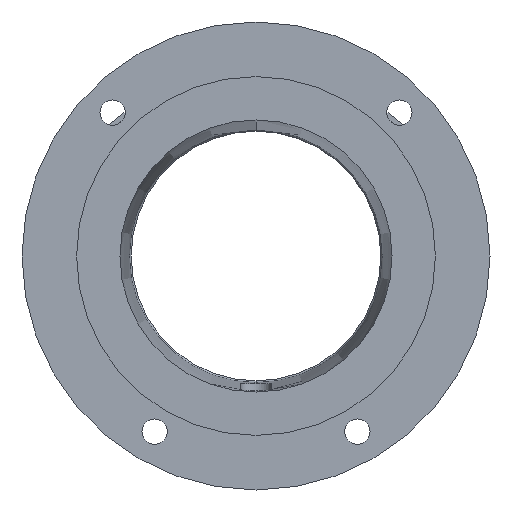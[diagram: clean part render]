
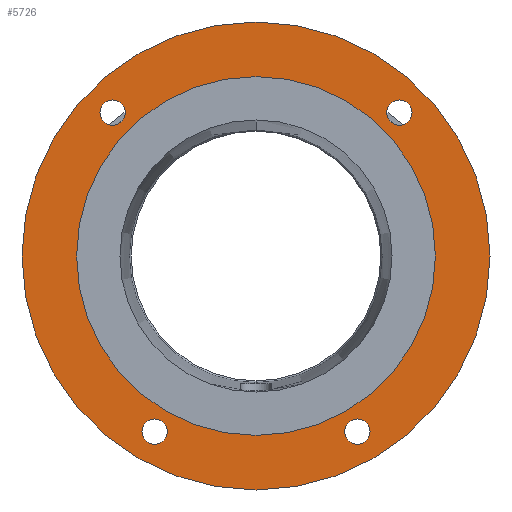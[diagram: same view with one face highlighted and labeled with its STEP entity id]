
A CAD part, front view. The second image highlights one B-rep face of the part: STEP entity #5726.
In plain terms, the highlighted planar face has unit normal (0, -1, 0).
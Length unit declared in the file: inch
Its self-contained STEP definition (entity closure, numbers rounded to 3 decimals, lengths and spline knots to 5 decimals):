
#108 = EDGE_CURVE ( 'NONE', #3861, #3759, #1354, .T. ) ;
#116 = EDGE_CURVE ( 'NONE', #2403, #3582, #1199, .T. ) ;
#123 = EDGE_CURVE ( 'NONE', #4046, #4669, #3722, .T. ) ;
#124 = EDGE_CURVE ( 'NONE', #1964, #4134, #2492, .T. ) ;
#131 = EDGE_CURVE ( 'NONE', #2571, #3847, #4849, .T. ) ;
#132 = EDGE_CURVE ( 'NONE', #904, #1211, #3575, .T. ) ;
#271 = DIRECTION ( 'NONE',  ( 0., 0., -1. ) ) ;
#284 = EDGE_LOOP ( 'NONE', ( #5945, #672 ) ) ;
#309 = CARTESIAN_POINT ( 'NONE',  ( 2.2981, 0., 2.09497 ) ) ;
#316 = FACE_BOUND ( 'NONE', #4858, .T. ) ;
#672 = ORIENTED_EDGE ( 'NONE', *, *, #2081, .F. ) ;
#680 = DIRECTION ( 'NONE',  ( 0., 1., 0. ) ) ;
#695 = AXIS2_PLACEMENT_3D ( 'NONE', #3709, #3684, #3677 ) ;
#697 = AXIS2_PLACEMENT_3D ( 'NONE', #3751, #3741, #3731 ) ;
#839 = DIRECTION ( 'NONE',  ( 0., -1., 0. ) ) ;
#904 = VERTEX_POINT ( 'NONE', #5585 ) ;
#990 = DIRECTION ( 'NONE',  ( 0., -1., 0. ) ) ;
#1199 = CIRCLE ( 'NONE', #4372, 0.20312 ) ;
#1211 = VERTEX_POINT ( 'NONE', #3798 ) ;
#1354 = CIRCLE ( 'NONE', #4402, 3.75 ) ;
#1473 = AXIS2_PLACEMENT_3D ( 'NONE', #3540, #680, #4020 ) ;
#1487 = FACE_BOUND ( 'NONE', #3214, .T. ) ;
#1550 = ORIENTED_EDGE ( 'NONE', *, *, #4420, .F. ) ;
#1664 = FACE_BOUND ( 'NONE', #284, .T. ) ;
#1669 = EDGE_CURVE ( 'NONE', #3582, #2403, #1788, .T. ) ;
#1681 = CARTESIAN_POINT ( 'NONE',  ( -1.625, 0., -3.01771 ) ) ;
#1728 = ORIENTED_EDGE ( 'NONE', *, *, #123, .F. ) ;
#1788 = CIRCLE ( 'NONE', #3356, 0.20312 ) ;
#1799 = EDGE_CURVE ( 'NONE', #4669, #4046, #4731, .T. ) ;
#1893 = CIRCLE ( 'NONE', #3075, 0.20312 ) ;
#1964 = VERTEX_POINT ( 'NONE', #309 ) ;
#1974 = CARTESIAN_POINT ( 'NONE',  ( 1.625, 0., -2.61146 ) ) ;
#2055 = AXIS2_PLACEMENT_3D ( 'NONE', #3834, #990, #4315 ) ;
#2063 = ORIENTED_EDGE ( 'NONE', *, *, #132, .F. ) ;
#2081 = EDGE_CURVE ( 'NONE', #4134, #1964, #4833, .T. ) ;
#2088 = CARTESIAN_POINT ( 'NONE',  ( 2.2981, 0., 2.2981 ) ) ;
#2095 = CARTESIAN_POINT ( 'NONE',  ( 0., 0., 3.75 ) ) ;
#2117 = ORIENTED_EDGE ( 'NONE', *, *, #1669, .F. ) ;
#2258 = CARTESIAN_POINT ( 'NONE',  ( 0., 0., 0. ) ) ;
#2284 = EDGE_LOOP ( 'NONE', ( #3633, #5434 ) ) ;
#2312 = AXIS2_PLACEMENT_3D ( 'NONE', #2258, #5467, #2718 ) ;
#2403 = VERTEX_POINT ( 'NONE', #1681 ) ;
#2411 = EDGE_CURVE ( 'NONE', #3847, #2571, #1893, .T. ) ;
#2439 = CARTESIAN_POINT ( 'NONE',  ( 0., 0., -3.75 ) ) ;
#2487 = EDGE_LOOP ( 'NONE', ( #4599, #4397 ) ) ;
#2492 = CIRCLE ( 'NONE', #695, 0.20313 ) ;
#2555 = DIRECTION ( 'NONE',  ( 0., 0., -1. ) ) ;
#2568 = CARTESIAN_POINT ( 'NONE',  ( -2.2981, 0., 2.50122 ) ) ;
#2571 = VERTEX_POINT ( 'NONE', #5001 ) ;
#2675 = DIRECTION ( 'NONE',  ( 0., -1., 0. ) ) ;
#2718 = DIRECTION ( 'NONE',  ( 0., 0., -1. ) ) ;
#2766 = FACE_BOUND ( 'NONE', #3484, .T. ) ;
#3075 = AXIS2_PLACEMENT_3D ( 'NONE', #5858, #3183, #271 ) ;
#3076 = PLANE ( 'NONE',  #1473 ) ;
#3183 = DIRECTION ( 'NONE',  ( 0., -1., 0. ) ) ;
#3214 = EDGE_LOOP ( 'NONE', ( #2063, #1550 ) ) ;
#3247 = AXIS2_PLACEMENT_3D ( 'NONE', #2088, #5339, #2555 ) ;
#3329 = AXIS2_PLACEMENT_3D ( 'NONE', #3701, #839, #4172 ) ;
#3356 = AXIS2_PLACEMENT_3D ( 'NONE', #5437, #2675, #5819 ) ;
#3484 = EDGE_LOOP ( 'NONE', ( #4492, #2117 ) ) ;
#3536 = DIRECTION ( 'NONE',  ( 0., 0., -1. ) ) ;
#3540 = CARTESIAN_POINT ( 'NONE',  ( -2.19153, 0., 0. ) ) ;
#3547 = DIRECTION ( 'NONE',  ( 0., -1., 0. ) ) ;
#3575 = CIRCLE ( 'NONE', #4340, 2.875 ) ;
#3582 = VERTEX_POINT ( 'NONE', #4533 ) ;
#3586 = CARTESIAN_POINT ( 'NONE',  ( 0., 0., 0. ) ) ;
#3615 = DIRECTION ( 'NONE',  ( 0., 0., -1. ) ) ;
#3633 = ORIENTED_EDGE ( 'NONE', *, *, #131, .F. ) ;
#3639 = DIRECTION ( 'NONE',  ( 0., -1., 0. ) ) ;
#3642 = CARTESIAN_POINT ( 'NONE',  ( -2.2981, 0., 2.2981 ) ) ;
#3677 = DIRECTION ( 'NONE',  ( 0., 0., -1. ) ) ;
#3684 = DIRECTION ( 'NONE',  ( 0., -1., 0. ) ) ;
#3701 = CARTESIAN_POINT ( 'NONE',  ( 1.625, 0., -2.81458 ) ) ;
#3709 = CARTESIAN_POINT ( 'NONE',  ( 2.2981, 0., 2.2981 ) ) ;
#3722 = CIRCLE ( 'NONE', #697, 0.20312 ) ;
#3731 = DIRECTION ( 'NONE',  ( 0., 0., -1. ) ) ;
#3741 = DIRECTION ( 'NONE',  ( 0., -1., 0. ) ) ;
#3751 = CARTESIAN_POINT ( 'NONE',  ( 1.625, 0., -2.81458 ) ) ;
#3759 = VERTEX_POINT ( 'NONE', #2439 ) ;
#3798 = CARTESIAN_POINT ( 'NONE',  ( 0., 0., 2.875 ) ) ;
#3834 = CARTESIAN_POINT ( 'NONE',  ( 0., 0., 0. ) ) ;
#3847 = VERTEX_POINT ( 'NONE', #2568 ) ;
#3861 = VERTEX_POINT ( 'NONE', #2095 ) ;
#3863 = DIRECTION ( 'NONE',  ( 0., 0., -1. ) ) ;
#3880 = DIRECTION ( 'NONE',  ( 0., -1., 0. ) ) ;
#3897 = CARTESIAN_POINT ( 'NONE',  ( -1.625, 0., -2.81458 ) ) ;
#3972 = DIRECTION ( 'NONE',  ( 0., 0., -1. ) ) ;
#3979 = DIRECTION ( 'NONE',  ( 0., -1., 0. ) ) ;
#3990 = CARTESIAN_POINT ( 'NONE',  ( 0., 0., 0. ) ) ;
#4010 = FACE_OUTER_BOUND ( 'NONE', #2487, .T. ) ;
#4020 = DIRECTION ( 'NONE',  ( 0., 0., 1. ) ) ;
#4046 = VERTEX_POINT ( 'NONE', #5772 ) ;
#4134 = VERTEX_POINT ( 'NONE', #5394 ) ;
#4172 = DIRECTION ( 'NONE',  ( 0., 0., -1. ) ) ;
#4284 = CIRCLE ( 'NONE', #2312, 2.875 ) ;
#4315 = DIRECTION ( 'NONE',  ( 0., 0., -1. ) ) ;
#4340 = AXIS2_PLACEMENT_3D ( 'NONE', #3586, #3547, #3536 ) ;
#4348 = AXIS2_PLACEMENT_3D ( 'NONE', #3642, #3639, #3615 ) ;
#4372 = AXIS2_PLACEMENT_3D ( 'NONE', #3897, #3880, #3863 ) ;
#4397 = ORIENTED_EDGE ( 'NONE', *, *, #108, .T. ) ;
#4402 = AXIS2_PLACEMENT_3D ( 'NONE', #3990, #3979, #3972 ) ;
#4420 = EDGE_CURVE ( 'NONE', #1211, #904, #4284, .T. ) ;
#4492 = ORIENTED_EDGE ( 'NONE', *, *, #116, .F. ) ;
#4533 = CARTESIAN_POINT ( 'NONE',  ( -1.625, 0., -2.61146 ) ) ;
#4599 = ORIENTED_EDGE ( 'NONE', *, *, #4670, .T. ) ;
#4669 = VERTEX_POINT ( 'NONE', #1974 ) ;
#4670 = EDGE_CURVE ( 'NONE', #3759, #3861, #5541, .T. ) ;
#4731 = CIRCLE ( 'NONE', #3329, 0.20312 ) ;
#4833 = CIRCLE ( 'NONE', #3247, 0.20313 ) ;
#4849 = CIRCLE ( 'NONE', #4348, 0.20312 ) ;
#4858 = EDGE_LOOP ( 'NONE', ( #1728, #5448 ) ) ;
#5001 = CARTESIAN_POINT ( 'NONE',  ( -2.2981, 0., 2.09497 ) ) ;
#5260 = FACE_BOUND ( 'NONE', #2284, .T. ) ;
#5339 = DIRECTION ( 'NONE',  ( 0., -1., 0. ) ) ;
#5394 = CARTESIAN_POINT ( 'NONE',  ( 2.2981, 0., 2.50122 ) ) ;
#5434 = ORIENTED_EDGE ( 'NONE', *, *, #2411, .F. ) ;
#5437 = CARTESIAN_POINT ( 'NONE',  ( -1.625, 0., -2.81458 ) ) ;
#5448 = ORIENTED_EDGE ( 'NONE', *, *, #1799, .F. ) ;
#5467 = DIRECTION ( 'NONE',  ( 0., -1., 0. ) ) ;
#5541 = CIRCLE ( 'NONE', #2055, 3.75 ) ;
#5585 = CARTESIAN_POINT ( 'NONE',  ( 0., 0., -2.875 ) ) ;
#5726 = ADVANCED_FACE ( 'NONE', ( #2766, #316, #1664, #5260, #1487, #4010 ), #3076, .F. ) ;
#5772 = CARTESIAN_POINT ( 'NONE',  ( 1.625, 0., -3.01771 ) ) ;
#5819 = DIRECTION ( 'NONE',  ( 0., 0., -1. ) ) ;
#5858 = CARTESIAN_POINT ( 'NONE',  ( -2.2981, 0., 2.2981 ) ) ;
#5945 = ORIENTED_EDGE ( 'NONE', *, *, #124, .F. ) ;
